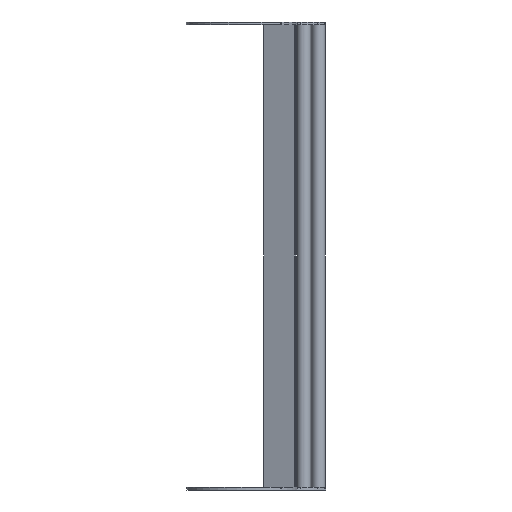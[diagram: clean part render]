
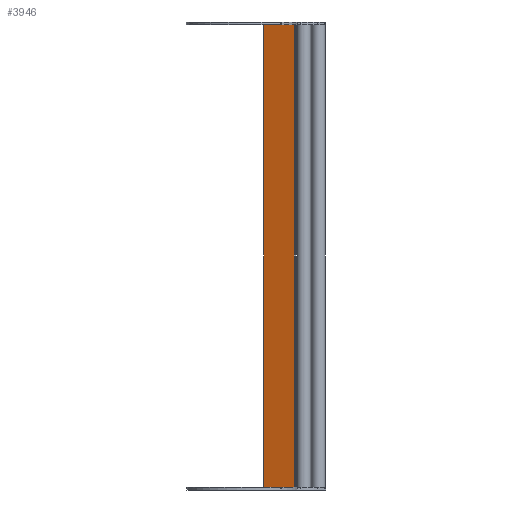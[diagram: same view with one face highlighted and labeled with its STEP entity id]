
A CAD part, front view. The second image highlights one B-rep face of the part: STEP entity #3946.
In plain terms, the highlighted planar face has unit normal (-0.342, -0.94, 0).
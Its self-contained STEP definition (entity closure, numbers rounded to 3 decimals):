
#19 = CARTESIAN_POINT ( 'NONE',  ( 23.4, 73.787, -500. ) ) ;
#42 = VECTOR ( 'NONE', #1038, 1000. ) ;
#52 = VECTOR ( 'NONE', #3470, 1000. ) ;
#64 = EDGE_LOOP ( 'NONE', ( #1317, #2160, #3275, #2453 ) ) ;
#144 = LINE ( 'NONE', #3849, #42 ) ;
#247 = VECTOR ( 'NONE', #1462, 1000. ) ;
#248 = CARTESIAN_POINT ( 'NONE',  ( 56.745, 61.65, -500. ) ) ;
#530 = FACE_OUTER_BOUND ( 'NONE', #64, .T. ) ;
#562 = VERTEX_POINT ( 'NONE', #3413 ) ;
#694 = LINE ( 'NONE', #3643, #247 ) ;
#758 = LINE ( 'NONE', #19, #52 ) ;
#785 = EDGE_CURVE ( 'NONE', #562, #1959, #144, .T. ) ;
#1038 = DIRECTION ( 'NONE',  ( 0., 0., 1. ) ) ;
#1158 = VERTEX_POINT ( 'NONE', #1906 ) ;
#1165 = PLANE ( 'NONE',  #3719 ) ;
#1317 = ORIENTED_EDGE ( 'NONE', *, *, #1849, .T. ) ;
#1358 = VECTOR ( 'NONE', #2730, 1000. ) ;
#1462 = DIRECTION ( 'NONE',  ( -0.94, 0.342, 0. ) ) ;
#1849 = EDGE_CURVE ( 'NONE', #1959, #1158, #694, .T. ) ;
#1906 = CARTESIAN_POINT ( 'NONE',  ( 23.4, 73.787, 0. ) ) ;
#1959 = VERTEX_POINT ( 'NONE', #4037 ) ;
#2160 = ORIENTED_EDGE ( 'NONE', *, *, #3262, .F. ) ;
#2170 = LINE ( 'NONE', #248, #1358 ) ;
#2288 = EDGE_CURVE ( 'NONE', #562, #3234, #2170, .T. ) ;
#2407 = DIRECTION ( 'NONE',  ( 0.342, 0.94, 0. ) ) ;
#2453 = ORIENTED_EDGE ( 'NONE', *, *, #785, .T. ) ;
#2730 = DIRECTION ( 'NONE',  ( -0.94, 0.342, 0. ) ) ;
#3234 = VERTEX_POINT ( 'NONE', #3767 ) ;
#3262 = EDGE_CURVE ( 'NONE', #3234, #1158, #758, .T. ) ;
#3275 = ORIENTED_EDGE ( 'NONE', *, *, #2288, .F. ) ;
#3327 = CARTESIAN_POINT ( 'NONE',  ( 56.745, 61.65, -500. ) ) ;
#3413 = CARTESIAN_POINT ( 'NONE',  ( 56.745, 61.65, -500. ) ) ;
#3470 = DIRECTION ( 'NONE',  ( 0., 0., 1. ) ) ;
#3643 = CARTESIAN_POINT ( 'NONE',  ( 56.745, 61.65, 0. ) ) ;
#3719 = AXIS2_PLACEMENT_3D ( 'NONE', #3327, #2407, #3970 ) ;
#3767 = CARTESIAN_POINT ( 'NONE',  ( 23.4, 73.787, -500. ) ) ;
#3849 = CARTESIAN_POINT ( 'NONE',  ( 56.745, 61.65, -500. ) ) ;
#3946 = ADVANCED_FACE ( 'NONE', ( #530 ), #1165, .F. ) ;
#3970 = DIRECTION ( 'NONE',  ( -0.94, 0.342, 0. ) ) ;
#4037 = CARTESIAN_POINT ( 'NONE',  ( 56.745, 61.65, 0. ) ) ;
